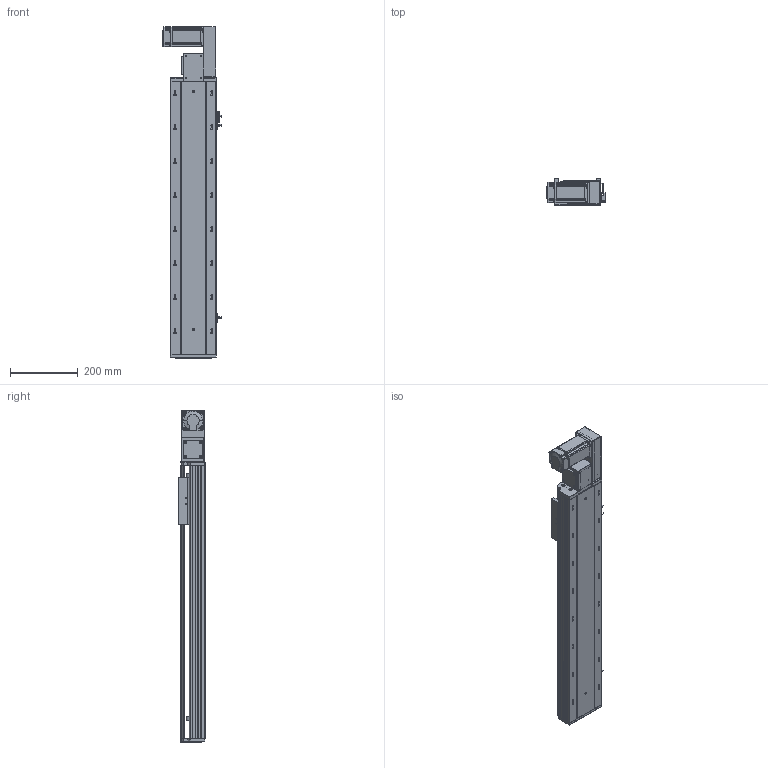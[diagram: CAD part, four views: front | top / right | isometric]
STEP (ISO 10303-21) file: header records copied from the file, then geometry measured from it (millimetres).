
FILE_DESCRIPTION (( 'STEP AP203' ), '1' );
FILE_NAME ('RY140-T-300-RK.SLDASM_550.step', '2021-03-01T06:45:10', ( '盈信电脑' ), ( '东莞市道滘镇水果街19号' ), 'SwSTEP 2.0', 'SolidWorks 2012', '' );
FILE_SCHEMA (( 'CONFIG_CONTROL_DESIGN' ));
Products named in the file (17): RY140-T-300-RK.SLDASM_550; RY120-T主同步轮轴承压盖; RY140-T萇儂假蚾啣; RY140-T萇儂欶; RY120-T蹟翐M4; 15; RY140-T翋肮祭謫盓傅釱; RY140-T翋肮謫裔啣; 滅袉蝶18-10; RY120-T肮祭湍揤踡輸1; RY120-T肮祭湍揤踡輸2; 覜茼ん672; RY120外置感应片(140共用）; RY140綴裔啣; RY140-T-300-DR倰第奻裔啣_550; RY140-T-300-DR倰第菁釱_550; RY140肮祭謫臏賑輸
Assembly tree (22 placements, depth 2):
  RY140-T-300-RK.SLDASM_550
    RY140-T-300-DR倰第菁釱_550
    RY140肮祭謫臏賑輸
    RY140-T-300-DR倰第奻裔啣_550
    RY140綴裔啣
    覜茼ん672  x3
    RY120外置感应片(140共用）
    RY120-T肮祭湍揤踡輸2
    RY120-T肮祭湍揤踡輸1
    RY140-T翋肮祭謫盓傅釱
    滅袉蝶18-10  x2
    RY140-T翋肮謫裔啣
    RY140-T萇儂欶
    RY140-T萇儂假蚾啣
    RY120-T蹟翐M4  x4
    15
    RY120-T主同步轮轴承压盖
Bounding box: 170.7 x 78 x 976.5 mm (x, y, z)
Volume: 2916669.5 mm3; surface area: 1085529.7 mm2
Topology: 22 solids, 22 shells, 2623 faces, 7197 edges, 4638 vertices
Faces by surface type: plane 1381, cylinder 952, cone 190, bspline 100
Entity records: 83210 total; most frequent: CARTESIAN_POINT 20457, ORIENTED_EDGE 12938, DIRECTION 12225, EDGE_CURVE 6469, VERTEX_POINT 4237, LINE 4157, VECTOR 4157, AXIS2_PLACEMENT_3D 4034
